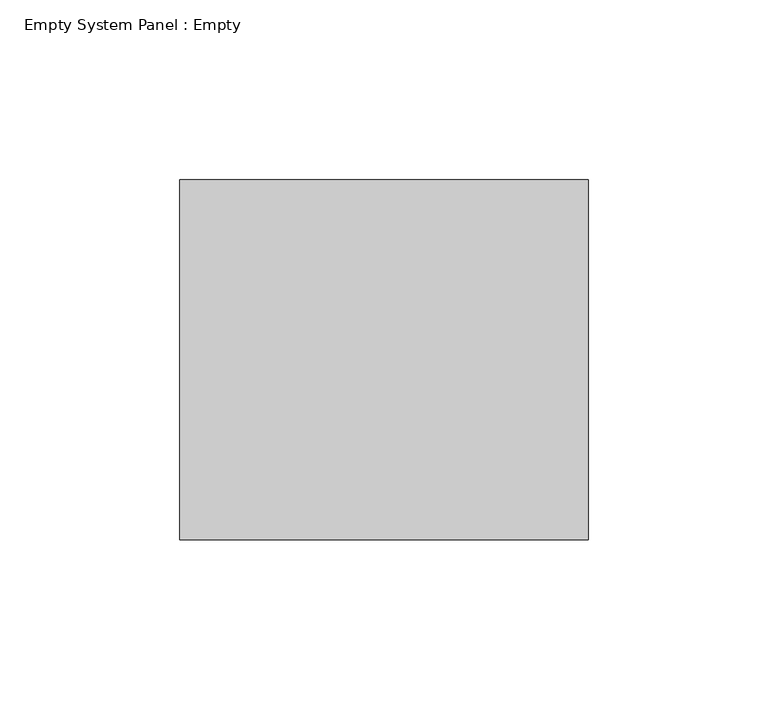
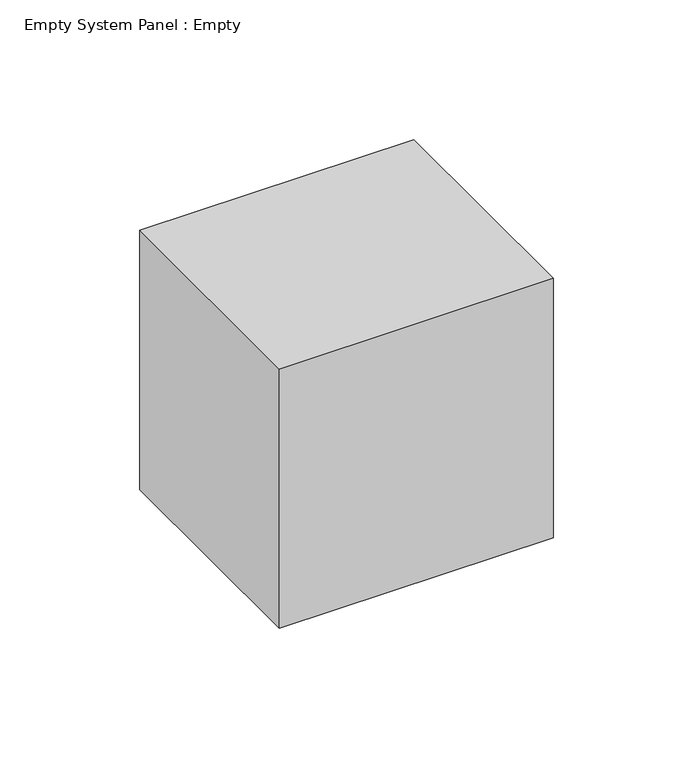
"""IFC4 building model written with IfcOpenShell, lengths in millimetres: plate geometry, Empty System Panel : Empty."""

from ifc_helpers import new_model, si_unit, origin, origin_with_axes, place, context, project, spatial, polyline, outline, extrude, source, transform, mapped, element, save


def empty_system_panel_empty_56815599(model_context):
    return source(origin(), model_context, "Body", "SweptSolid", [
        extrude(outline(polyline([(56.6878048, 50.0), (-56.6878048, 50.0), (-56.6878048, 150.0), (56.6878048, 150.0), (56.6878048, 50.0)])), origin_with_axes(), (0.0, 0.0, 1.0), 113.37561),
    ])


if __name__ == "__main__":
    model = new_model("IFC4")
    model_context = context("Model", 3, world=origin())
    ifc_project = project(units=[si_unit("LENGTHUNIT", "METRE", prefix="MILLI")], contexts=[model_context])
    site = spatial("IfcSite", under=ifc_project)
    building = spatial("IfcBuilding", under=site)
    placement = place(None, origin())
    empty_system_panel_empty_shape = empty_system_panel_empty_56815599(model_context)
    element("IfcPlate", 1, ObjectType="Empty System Panel : Empty", at=placement, inside=building, context=model_context, shape_type="MappedRepresentation", body=[
        mapped(empty_system_panel_empty_shape, transform((0.0, 0.0, 0.0), x_axis=(1.0, 0.0, 0.0), y_axis=(0.0, 1.0, 0.0), z_axis=(0.0, 0.0, 1.0))),
    ])
    save(model, "model.ifc")
